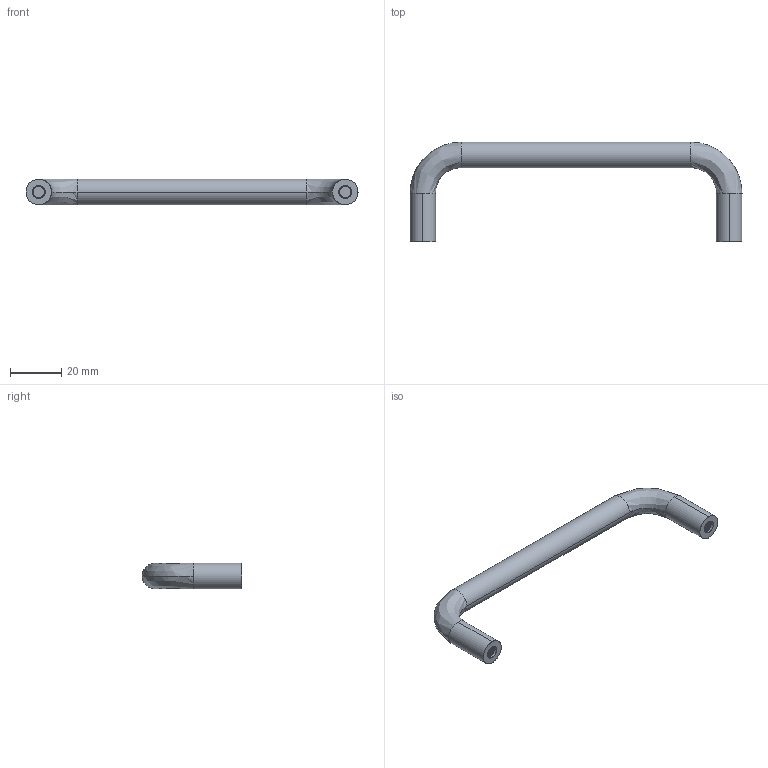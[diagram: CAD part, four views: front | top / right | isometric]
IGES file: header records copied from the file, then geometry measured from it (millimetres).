
Start section: SolidWorks IGES file using analytic representation for surfaces
Global section: file name: C:\Documents and Settings\Deathkiller\桌面\3D IGES\U型把手\MS-742\742-120.IGS; native system: SolidWorks 2006 by SolidWorks Corporation; preprocessor: SolidWorks 2006 by SolidWorks Corporation; author: Deathkiller; date: 080624.172956; units: millimetre
Bounding box: 130 x 39 x 10 mm (x, y, z)
Surface area: 6382.6 mm2 (no closed solid volume)
Topology: 0 solids, 0 shells, 84 faces, 2112 edges, 2112 vertices
Faces by surface type: revolution 68, bspline 16
